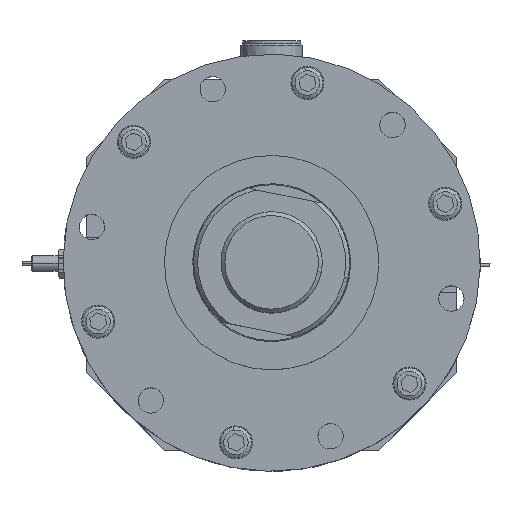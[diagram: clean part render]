
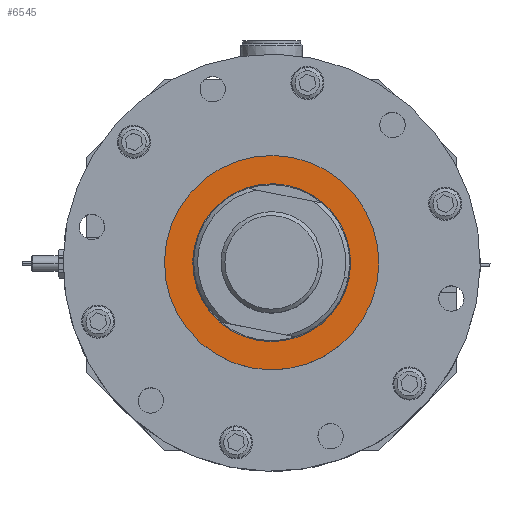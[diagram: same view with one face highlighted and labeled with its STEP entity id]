
A CAD part, top view. The second image highlights one B-rep face of the part: STEP entity #6545.
In plain terms, the highlighted planar face has unit normal (0, 0, 1) as drawn and (0, 0, -1) by its records, which use the part's own axes.
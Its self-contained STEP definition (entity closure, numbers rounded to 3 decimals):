
#227 = CARTESIAN_POINT ( 'NONE',  ( 18306.987, 6174.891, 0. ) ) ;
#382 = EDGE_LOOP ( 'NONE', ( #31816, #8100 ) ) ;
#1520 = DIRECTION ( 'NONE',  ( 1., 0., 0. ) ) ;
#1539 = VERTEX_POINT ( 'NONE', #6221 ) ;
#2500 = AXIS2_PLACEMENT_3D ( 'NONE', #4511, #28900, #1520 ) ;
#4511 = CARTESIAN_POINT ( 'NONE',  ( 0., 0., 0. ) ) ;
#5342 = VERTEX_POINT ( 'NONE', #34647 ) ;
#6221 = CARTESIAN_POINT ( 'NONE',  ( 18361.987, 6174.891, 0. ) ) ;
#6545 = ADVANCED_FACE ( 'NONE', ( #16116, #31917 ), #22921, .F. ) ;
#7138 = ORIENTED_EDGE ( 'NONE', *, *, #21687, .F. ) ;
#8100 = ORIENTED_EDGE ( 'NONE', *, *, #22165, .T. ) ;
#10209 = CIRCLE ( 'NONE', #11484, 55. ) ;
#10461 = EDGE_CURVE ( 'NONE', #1539, #31703, #10209, .T. ) ;
#11053 = AXIS2_PLACEMENT_3D ( 'NONE', #17566, #32567, #13773 ) ;
#11484 = AXIS2_PLACEMENT_3D ( 'NONE', #227, #36417, #15010 ) ;
#11805 = EDGE_LOOP ( 'NONE', ( #7138, #19494 ) ) ;
#12963 = AXIS2_PLACEMENT_3D ( 'NONE', #22637, #32034, #31625 ) ;
#13773 = DIRECTION ( 'NONE',  ( -1., 0., 0. ) ) ;
#15010 = DIRECTION ( 'NONE',  ( -1., 0., 0. ) ) ;
#16116 = FACE_OUTER_BOUND ( 'NONE', #11805, .T. ) ;
#17166 = EDGE_CURVE ( 'NONE', #28598, #5342, #37302, .T. ) ;
#17566 = CARTESIAN_POINT ( 'NONE',  ( 18306.987, 6174.891, 0. ) ) ;
#18111 = CIRCLE ( 'NONE', #11053, 40.5 ) ;
#18675 = CARTESIAN_POINT ( 'NONE',  ( 18306.987, 6174.891, 0. ) ) ;
#19494 = ORIENTED_EDGE ( 'NONE', *, *, #10461, .F. ) ;
#20042 = CIRCLE ( 'NONE', #12963, 55. ) ;
#21687 = EDGE_CURVE ( 'NONE', #31703, #1539, #20042, .T. ) ;
#22165 = EDGE_CURVE ( 'NONE', #5342, #28598, #18111, .T. ) ;
#22637 = CARTESIAN_POINT ( 'NONE',  ( 18306.987, 6174.891, 0. ) ) ;
#22921 = PLANE ( 'NONE',  #2500 ) ;
#26443 = AXIS2_PLACEMENT_3D ( 'NONE', #18675, #30464, #36273 ) ;
#28598 = VERTEX_POINT ( 'NONE', #29212 ) ;
#28900 = DIRECTION ( 'NONE',  ( 0., 0., 1. ) ) ;
#29212 = CARTESIAN_POINT ( 'NONE',  ( 18266.487, 6174.891, 0. ) ) ;
#30464 = DIRECTION ( 'NONE',  ( 0., 0., 1. ) ) ;
#31625 = DIRECTION ( 'NONE',  ( -1., 0., 0. ) ) ;
#31703 = VERTEX_POINT ( 'NONE', #35842 ) ;
#31816 = ORIENTED_EDGE ( 'NONE', *, *, #17166, .T. ) ;
#31917 = FACE_BOUND ( 'NONE', #382, .T. ) ;
#32034 = DIRECTION ( 'NONE',  ( 0., 0., 1. ) ) ;
#32567 = DIRECTION ( 'NONE',  ( 0., 0., 1. ) ) ;
#34647 = CARTESIAN_POINT ( 'NONE',  ( 18347.487, 6174.891, 0. ) ) ;
#35842 = CARTESIAN_POINT ( 'NONE',  ( 18251.987, 6174.891, 0. ) ) ;
#36273 = DIRECTION ( 'NONE',  ( -1., 0., 0. ) ) ;
#36417 = DIRECTION ( 'NONE',  ( 0., 0., 1. ) ) ;
#37302 = CIRCLE ( 'NONE', #26443, 40.5 ) ;
